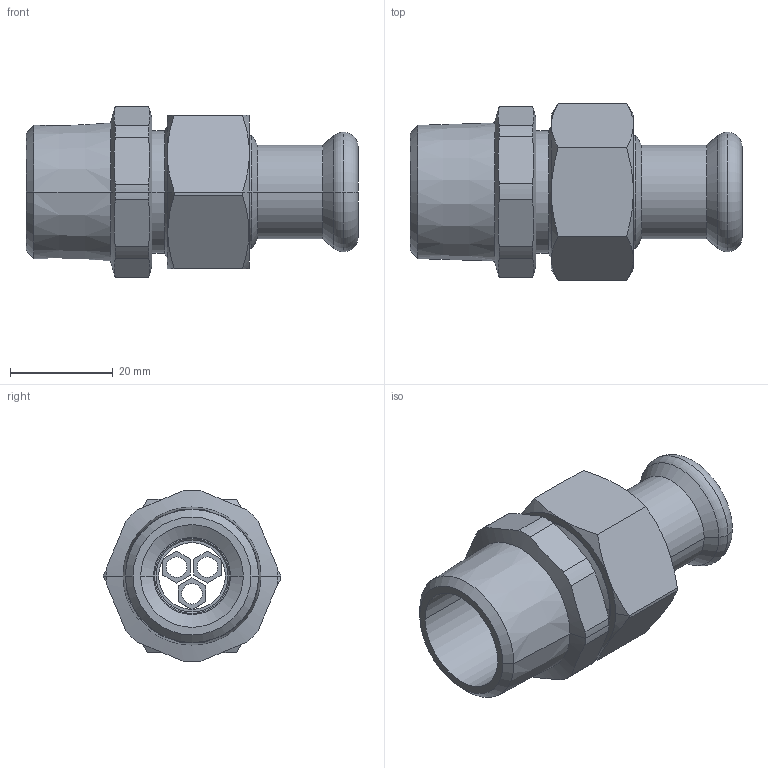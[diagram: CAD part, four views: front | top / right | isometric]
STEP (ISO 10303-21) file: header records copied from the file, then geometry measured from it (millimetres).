
FILE_DESCRIPTION(('OneSpaceDesigner STEP Export'),'2;1');
FILE_NAME('R2735 15xRp3-4.stp','2010-06-10T13:43:41',(''),(''),'OneSpace Designer STEP processor for AP214 (Solid Model)','OneSpace Modeling 15.00A 14-Mar-2007 (C) CoCreate Software GmbH','');
FILE_SCHEMA(('AUTOMOTIVE_DESIGN { 1 0 10303 214 1 1 1 1 }'));
Length unit declared in the file: millimetre
Products named in the file (2): R2735_15xRp3-4
Assembly tree (1 placements, depth 2):
  R2735_15xRp3-4
    R2735_15xRp3-4
Bounding box: 64.7 x 34.64 x 33.48 mm (x, y, z)
Volume: 20183.6 mm3; surface area: 12413.5 mm2
Topology: 1 solids, 1 shells, 148 faces, 344 edges, 208 vertices
Faces by surface type: plane 50, cylinder 46, cone 44, torus 8
Entity records: 5244 total; most frequent: CARTESIAN_POINT 2249, ORIENTED_EDGE 688, DIRECTION 498, EDGE_CURVE 344, VERTEX_POINT 208, AXIS2_PLACEMENT_3D 169, EDGE_LOOP 166, VECTOR 160
